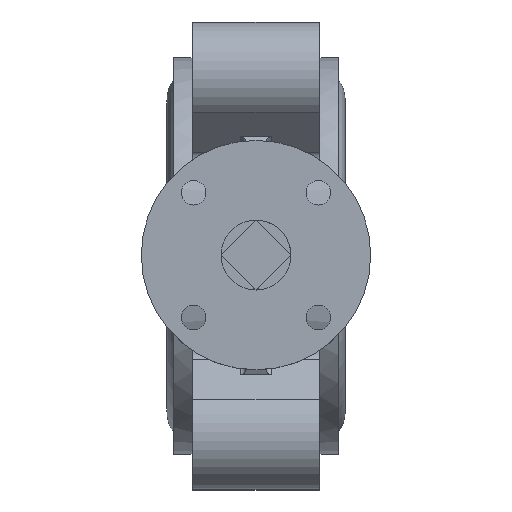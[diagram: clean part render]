
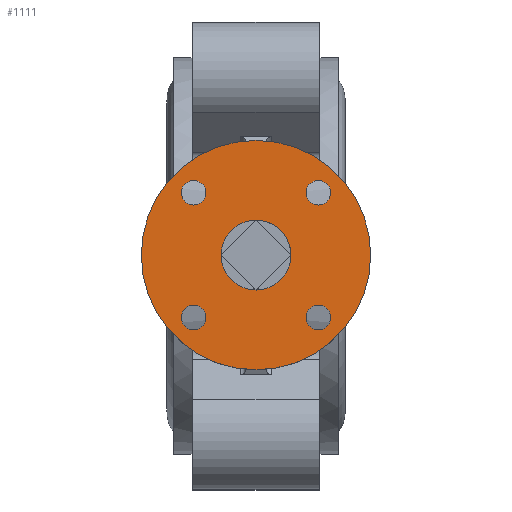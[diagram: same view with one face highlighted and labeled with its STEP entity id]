
A CAD part, top view. The second image highlights one B-rep face of the part: STEP entity #1111.
In plain terms, the highlighted planar face has unit normal (0, 0, 1).
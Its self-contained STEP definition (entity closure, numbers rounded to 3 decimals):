
#1111=ADVANCED_FACE('',(#3552,#3554,#3556,#3558,#3560,#3562),#3564,.T.);
#3552=FACE_BOUND('',#3553,.T.);
#3553=EDGE_LOOP('',(#7795));
#3554=FACE_BOUND('',#3555,.T.);
#3555=EDGE_LOOP('',(#7796));
#3556=FACE_BOUND('',#3557,.T.);
#3557=EDGE_LOOP('',(#7797));
#3558=FACE_BOUND('',#3559,.T.);
#3559=EDGE_LOOP('',(#7798));
#3560=FACE_BOUND('',#3561,.T.);
#3561=EDGE_LOOP('',(#7799));
#3562=FACE_BOUND('',#3563,.T.);
#3563=EDGE_LOOP('',(#7800));
#3564=PLANE('',#3565);
#3565=AXIS2_PLACEMENT_3D('',#3566,#3567,#3568);
#3566=CARTESIAN_POINT('',(0.,0.,143.));
#3567=DIRECTION('',(0.,0.,1.));
#3568=DIRECTION('',(1.,0.,0.));
#7795=ORIENTED_EDGE('',*,*,#10637,.T.);
#7796=ORIENTED_EDGE('',*,*,#10450,.T.);
#7797=ORIENTED_EDGE('',*,*,#10638,.T.);
#7798=ORIENTED_EDGE('',*,*,#10639,.T.);
#7799=ORIENTED_EDGE('',*,*,#10640,.T.);
#7800=ORIENTED_EDGE('',*,*,#10641,.T.);
#10450=EDGE_CURVE('',#11861,#11861,#11862,.F.);
#10637=EDGE_CURVE('',#12144,#12144,#12145,.T.);
#10638=EDGE_CURVE('',#12146,#12146,#12147,.F.);
#10639=EDGE_CURVE('',#12148,#12148,#12149,.F.);
#10640=EDGE_CURVE('',#12150,#12150,#12151,.F.);
#10641=EDGE_CURVE('',#12152,#12152,#12153,.F.);
#11861=VERTEX_POINT('',#14264);
#11862=CIRCLE('',#14265,9.899);
#12144=VERTEX_POINT('',#14975);
#12145=CIRCLE('',#14976,32.5);
#12146=VERTEX_POINT('',#14980);
#12147=CIRCLE('',#14981,3.5);
#12148=VERTEX_POINT('',#14985);
#12149=CIRCLE('',#14986,3.5);
#12150=VERTEX_POINT('',#14990);
#12151=CIRCLE('',#14991,3.5);
#12152=VERTEX_POINT('',#14995);
#12153=CIRCLE('',#14996,3.5);
#14264=CARTESIAN_POINT('',(0.,-9.899,143.));
#14265=AXIS2_PLACEMENT_3D('',#14266,#14267,#14268);
#14266=CARTESIAN_POINT('',(0.,0.,143.));
#14267=DIRECTION('',(0.,0.,1.));
#14268=DIRECTION('',(0.,-1.,0.));
#14975=CARTESIAN_POINT('',(-32.5,0.,143.));
#14976=AXIS2_PLACEMENT_3D('',#14977,#14978,#14979);
#14977=CARTESIAN_POINT('',(0.,0.,143.));
#14978=DIRECTION('',(0.,0.,1.));
#14979=DIRECTION('',(-1.,0.,0.));
#14980=CARTESIAN_POINT('',(-21.178,-17.678,143.));
#14981=AXIS2_PLACEMENT_3D('',#14982,#14983,#14984);
#14982=CARTESIAN_POINT('',(-17.678,-17.678,143.));
#14983=DIRECTION('',(0.,0.,1.));
#14984=DIRECTION('',(-1.,0.,0.));
#14985=CARTESIAN_POINT('',(17.678,-21.178,143.));
#14986=AXIS2_PLACEMENT_3D('',#14987,#14988,#14989);
#14987=CARTESIAN_POINT('',(17.678,-17.678,143.));
#14988=DIRECTION('',(0.,0.,1.));
#14989=DIRECTION('',(0.,-1.,0.));
#14990=CARTESIAN_POINT('',(21.178,17.678,143.));
#14991=AXIS2_PLACEMENT_3D('',#14992,#14993,#14994);
#14992=CARTESIAN_POINT('',(17.678,17.678,143.));
#14993=DIRECTION('',(0.,0.,1.));
#14994=DIRECTION('',(1.,0.,0.));
#14995=CARTESIAN_POINT('',(-17.678,21.178,143.));
#14996=AXIS2_PLACEMENT_3D('',#14997,#14998,#14999);
#14997=CARTESIAN_POINT('',(-17.678,17.678,143.));
#14998=DIRECTION('',(0.,0.,1.));
#14999=DIRECTION('',(0.,1.,0.));
